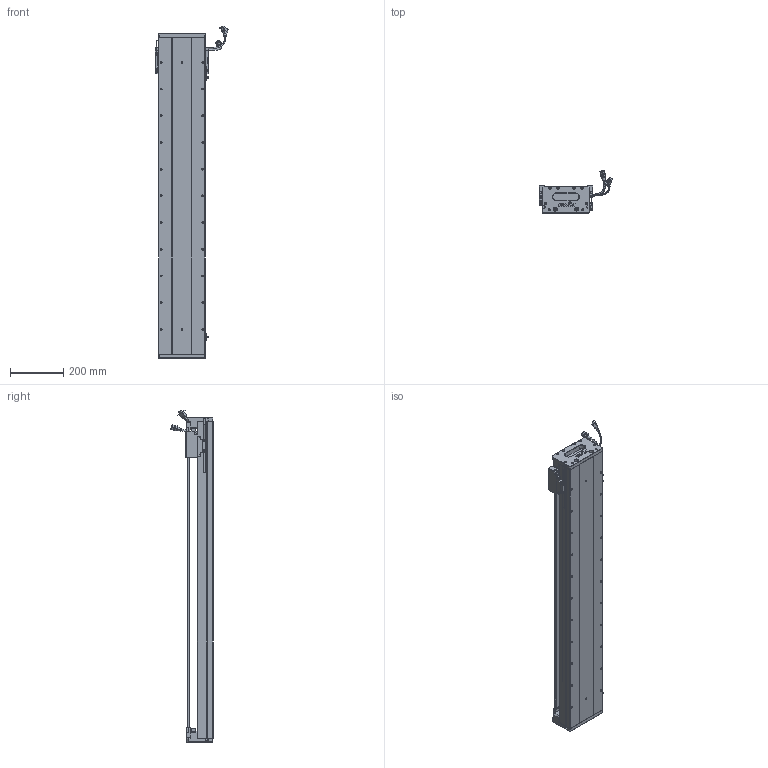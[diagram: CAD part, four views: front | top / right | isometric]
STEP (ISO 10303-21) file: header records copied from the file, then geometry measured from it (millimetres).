
FILE_DESCRIPTION (( 'STEP AP203' ), '1' );
FILE_NAME ('Z1-RY170D-1-L500-B-K.SLDASM_1000.step', '2021-05-17T08:52:19', ( '盈信电脑' ), ( '东莞市道滘镇水果街19号' ), 'SwSTEP 2.0', 'SolidWorks 2016', '' );
FILE_SCHEMA (( 'CONFIG_CONTROL_DESIGN' ));
Length unit declared in the file: millimetre
Products named in the file (36): 080黍杅芛假蚾釱21遴; SHIELDPLATE; Z-170詩湍傷裔啣; SCREW-M1.6; 170-Z-臏賑輸盄裔(21遴); 榋妏寠巭燃_暯_M2_2; Z-RY170詩湍奻揤裔; Z-RY170詩湍狟揤裔; SCREW-M1.7-1; HARNESS-Part-2; PBU_SHEET; SCREW-M1.6-3; SEAL; LABEL-Part-1; SCREW-M1.7; COVER-Part-1; SCALE-Part-2; 140蚥薯蝶輸; 140雄赽晤鎢ん堤盄; Z1-RY170-L500詩湍145mm遵_1000; SCALE; SCALE-Part-1; COVER; Z1-RY170-L500耀郪菁釱_1000; HOLDER0; SEAL-Part-1; LABEL; Z1-RY170D-1-L500-B-K.SLDASM_1000; PSLH080_PSLF2; HARNESS; 覜茼ん672; SCREW-M1.6-1; Z1-RY170臏賑輸(21遴); HARNESS-Part-1; RY170直线电机感应器672光电感应片; SCREW-M1.6-2
Assembly tree (41 placements, depth 4):
  Z1-RY170D-1-L500-B-K.SLDASM_1000
    Z1-RY170-L500耀郪菁釱_1000
    RY170直线电机感应器672光电感应片
    Z1-RY170臏賑輸(21遴)
    覜茼ん672  x3
    PSLH080_PSLF2
      SCALE
        SCALE-Part-1
        SCALE-Part-2
      HARNESS
        HARNESS-Part-1
        HARNESS-Part-2
      LABEL
        LABEL-Part-1
      COVER
        COVER-Part-1
      SEAL
        SEAL-Part-1
      榋妏寠巭燃_暯_M2_2
      SHIELDPLATE
      SCREW-M1.7
      SCREW-M1.7-1
      PBU_SHEET
      SCREW-M1.6
      SCREW-M1.6-1
      SCREW-M1.6-2
      SCREW-M1.6-3
      HOLDER0
    080黍杅芛假蚾釱21遴
    Z1-RY170-L500詩湍145mm遵_1000
    Z-170詩湍傷裔啣  x2
    Z-RY170詩湍奻揤裔  x2
    Z-RY170詩湍狟揤裔  x2
    140蚥薯蝶輸  x2
    170-Z-臏賑輸盄裔(21遴)
    140雄赽晤鎢ん堤盄
Bounding box: 275.34 x 158.11 x 1243.72 mm (x, y, z)
Volume: 6511251.7 mm3; surface area: 1615258.7 mm2
Topology: 36 solids, 36 shells, 3008 faces, 8063 edges, 5065 vertices
Faces by surface type: cylinder 1366, plane 1148, cone 372, torus 69, bspline 53
Entity records: 88179 total; most frequent: CARTESIAN_POINT 22598, ORIENTED_EDGE 12954, DIRECTION 12709, EDGE_CURVE 6477, AXIS2_PLACEMENT_3D 4634, VERTEX_POINT 4183, VECTOR 3441, LINE 3441
